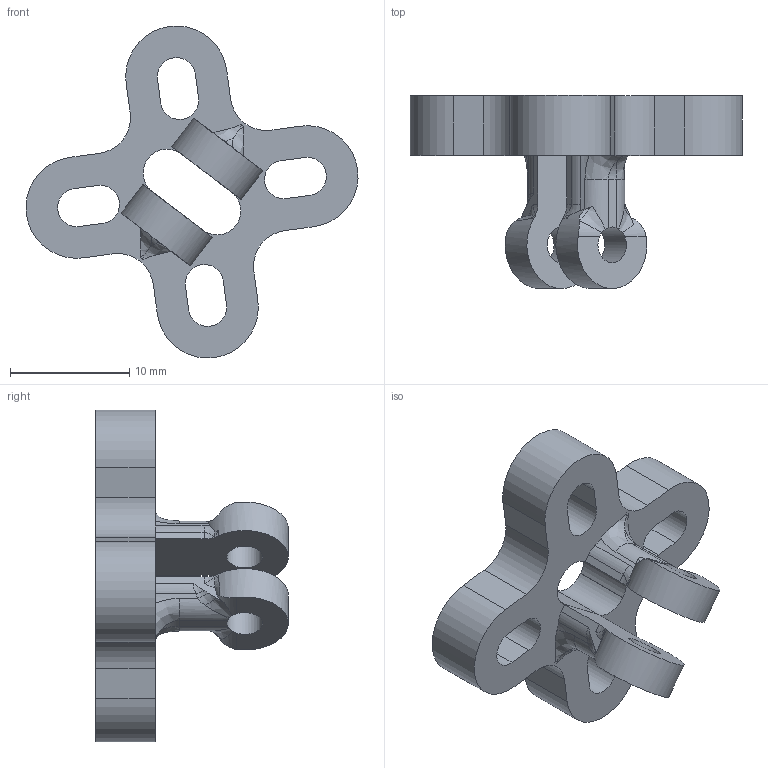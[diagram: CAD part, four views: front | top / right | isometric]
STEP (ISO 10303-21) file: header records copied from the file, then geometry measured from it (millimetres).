
FILE_DESCRIPTION(/* description */ (''),/* implementation_level */ '2;1');
FILE_NAME(/* name */ 'D:\3D Printing & CAD Work\Customers\My self\Drone 3.0\Thingiverce\Part5.stp',/* time_stamp */ '2018-11-19T19:01:52+02:00',/* author */ ('Damien'),/* organization */ (''),/* preprocessor_version */ 'ST-DEVELOPER v17',/* originating_system */ 'Autodesk Inventor 2018',/* authorisation */ '');
FILE_SCHEMA (('AUTOMOTIVE_DESIGN { 1 0 10303 214 3 1 1 }'));
Length unit declared in the file: millimetre
Products named in the file (1): Part5
Bounding box: 27.82 x 16.15 x 27.82 mm (x, y, z)
Volume: 1757.1 mm3; surface area: 1828.7 mm2
Topology: 1 solids, 1 shells, 109 faces, 312 edges, 200 vertices
Faces by surface type: cylinder 54, plane 31, bspline 24
Full cylindrical faces by diameter (mm): 3 x2
Entity records: 4432 total; most frequent: CARTESIAN_POINT 1677, ORIENTED_EDGE 616, DIRECTION 504, EDGE_CURVE 308, VERTEX_POINT 200, AXIS2_PLACEMENT_3D 190, LINE 124, VECTOR 124
